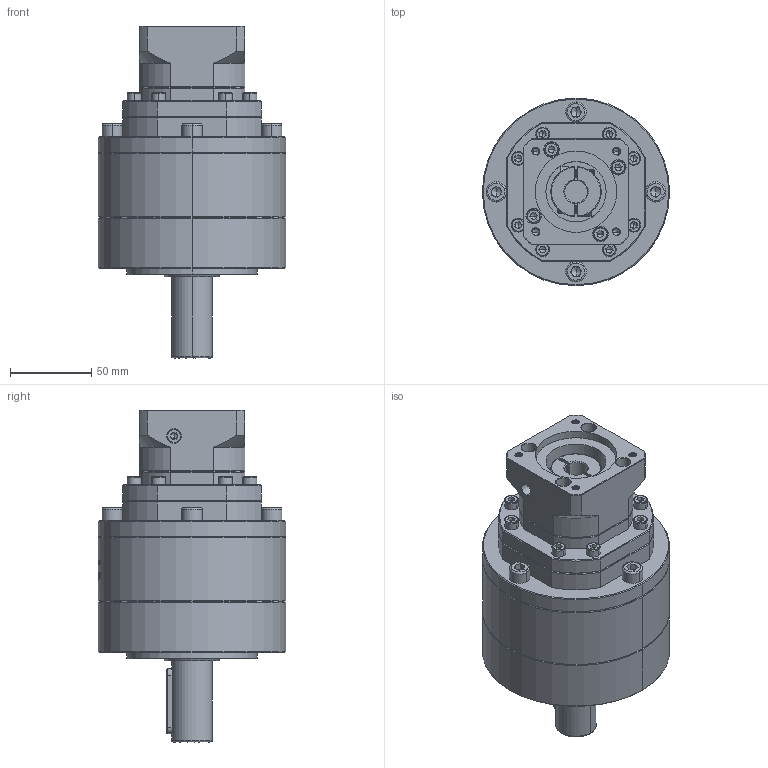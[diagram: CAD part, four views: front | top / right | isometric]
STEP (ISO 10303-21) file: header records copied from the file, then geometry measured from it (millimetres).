
FILE_DESCRIPTION (( 'STEP AP214' ), '1' );
FILE_NAME ('ZE120A-D25-L3-14-50-70-M5.step', '2023-03-09T15:30:27', ( '' ), ( 'Microsoft' ), 'SwSTEP 2.0', 'SolidWorks 2016', '' );
FILE_SCHEMA (( 'AUTOMOTIVE_DESIGN' ));
Length unit declared in the file: millimetre
Products named in the file (1): ZE120A-D25-L3-14-50-70-M5
Bounding box: 115 x 115 x 204 mm (x, y, z)
Volume: 1150219.4 mm3; surface area: 111012.6 mm2
Topology: 7 solids, 7 shells, 2167 faces, 5731 edges, 3666 vertices
Faces by surface type: plane 981, cylinder 521, bspline 349, cone 294, torus 22
Entity records: 121084 total; most frequent: CARTESIAN_POINT 48135, ORIENTED_EDGE 11338, DIRECTION 8724, EDGE_CURVE 5669, VERTEX_POINT 3666, LINE 3038, VECTOR 3038, AXIS2_PLACEMENT_3D 2843
